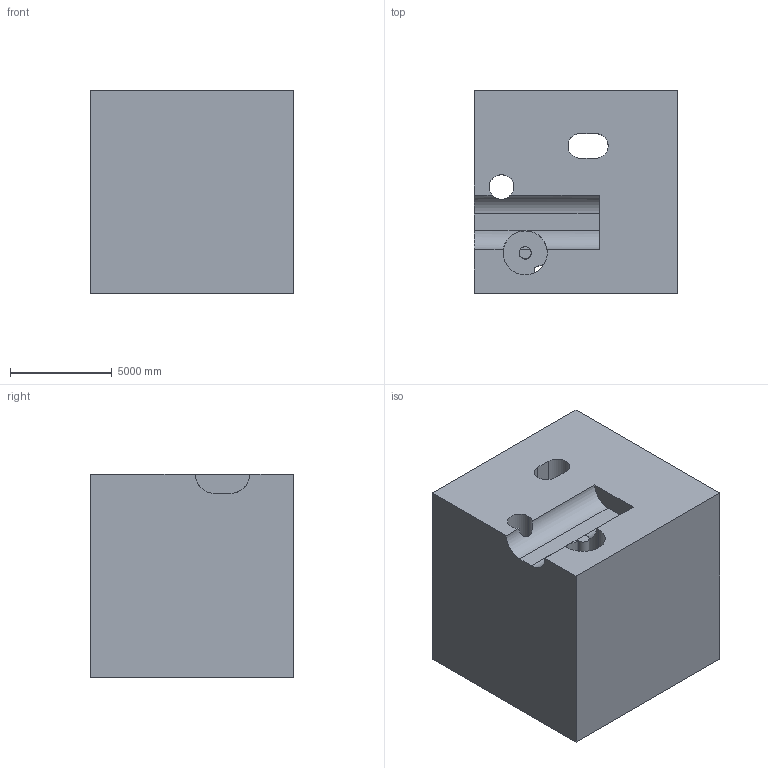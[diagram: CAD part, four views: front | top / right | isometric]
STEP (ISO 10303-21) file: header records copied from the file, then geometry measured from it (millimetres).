
FILE_DESCRIPTION (( 'STEP AP203' ), '1' );
FILE_NAME ('91.STEP', '2022-08-30T14:32:20', ( 'user' ), ( '' ), 'SwSTEP 2.0', 'SolidWorks 2021', '' );
FILE_SCHEMA (( 'CONFIG_CONTROL_DESIGN' ));
Length unit declared in the file: centimetre
Products named in the file (1): 91
Bounding box: 10000 x 10000 x 10000 mm (x, y, z)
Volume: 875053941256 mm3; surface area: 836092121.5 mm2
Topology: 1 solids, 1 shells, 54 faces, 153 edges, 102 vertices
Faces by surface type: plane 30, cylinder 24
Entity records: 2292 total; most frequent: CARTESIAN_POINT 753, DIRECTION 312, ORIENTED_EDGE 306, EDGE_CURVE 153, AXIS2_PLACEMENT_3D 109, VERTEX_POINT 102, LINE 94, VECTOR 94
